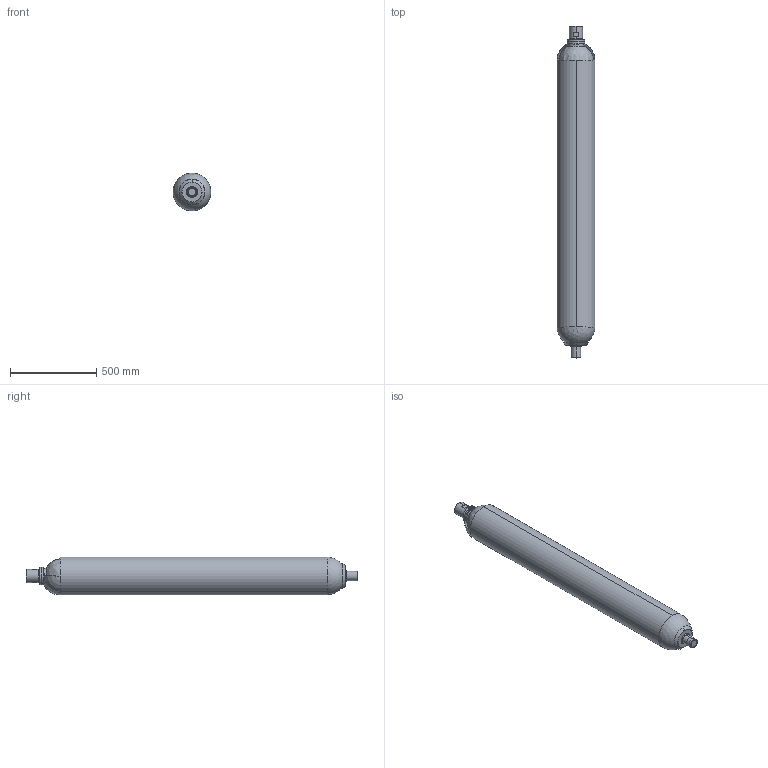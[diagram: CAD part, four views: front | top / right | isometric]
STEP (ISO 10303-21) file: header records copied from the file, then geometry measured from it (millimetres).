
FILE_DESCRIPTION((''),'2;1');
FILE_NAME('EHV_50_330_90_DIA_51.stp','2011-02-28T17:02:36',(''),(''),'Mechanical Desktop 2009','Mechanical Desktop 2009',', , ');
FILE_SCHEMA(('CONFIG_CONTROL_DESIGN'));
Length unit declared in the file: millimetre
Products named in the file (77): DESSIN16; AD108374-01125; CA108364-00190; CA108364-00190A; PF108369-05200A; PF108369-05200; pf108369-05200|AVE_RENDER; pf108369-05200|AVE_GLOBAL; BP108357-00200; CORPS; OB106668-04800; OB106668-04800A; EC101001-00200; EC101001-00200A; BC110298-01720; BE105544-01700; BE105544-01700A; EC100990-01200; EC100990-01200A; BM110296-01700; CB110082-01700; CB110082-01700A; GABARIT; VE108384-00225; PM100108-00025; PM100108-00025A; CI100114-00025A; CI100114-00025; CS108385-00225; CALLOTTE; CV108366-00200; CV108366-00200A; PC100109-00025A; PC100109-00025; VA108479-01626; VA108473-01626; VA108439-01600; VA108439-01600A; VA108439-01600|GABARIT; VA108437-01600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
Assembly tree (29 placements, depth 6):
  DESSIN16
    AD108374-01125
      CA108364-00190
        CA108364-00190A
      PF108369-05200A
        PF108369-05200
        pf108369-05200|AVE_RENDER  x8
        pf108369-05200|AVE_GLOBAL
      BP108357-00200
        CORPS
        OB106668-04800
          OB106668-04800A
      EC101001-00200
        EC101001-00200A
      BC110298-01720
        BE105544-01700
          BE105544-01700A
        EC100990-01200
          EC100990-01200A
        BM110296-01700
          CB110082-01700
            CB110082-01700A
    GABARIT
  VE108384-00225
  PM100108-00025
  PM100108-00025A
  CI100114-00025A
Bounding box: 219.1 x 1919.7 x 219.1 mm (x, y, z)
Volume: 4909770.4 mm3; surface area: 2557498.3 mm2
Topology: 8 solids, 8 shells, 202 faces, 483 edges, 293 vertices
Faces by surface type: cylinder 70, plane 52, cone 48, bspline 21, torus 8, sphere 3
Entity records: 8018 total; most frequent: CARTESIAN_POINT 1983, DIRECTION 1180, ORIENTED_EDGE 934, AXIS2_PLACEMENT_3D 511, EDGE_CURVE 467, VERTEX_POINT 289, CIRCLE 279, EDGE_LOOP 236
